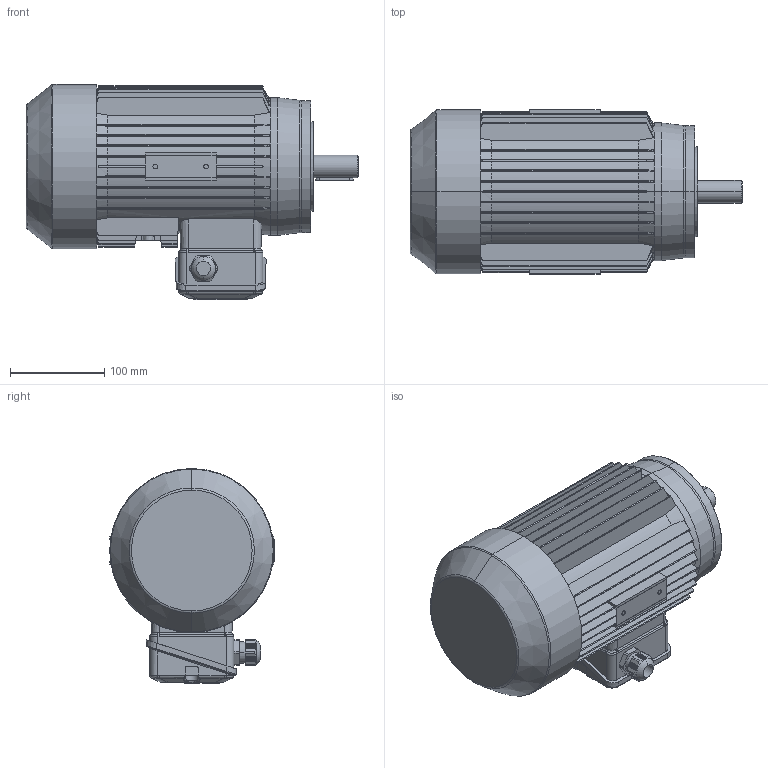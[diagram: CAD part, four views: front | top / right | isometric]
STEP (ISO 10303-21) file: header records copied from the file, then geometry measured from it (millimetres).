
FILE_DESCRIPTION (( 'STEP AP214' ), '1' );
FILE_NAME ('MAP90L4A IM3641 FT115.STEP', '2020-12-21T15:10:46', ( '' ), ( '' ), 'SwSTEP 2.0', 'SolidWorks 2018', '' );
FILE_SCHEMA (( 'AUTOMOTIVE_DESIGN' ));
Length unit declared in the file: millimetre
Products named in the file (1): MAP90L4A IM3641 FT115
Bounding box: 352 x 174.5 x 228 mm (x, y, z)
Volume: 6021415.9 mm3; surface area: 593731.4 mm2
Topology: 12 solids, 17 shells, 1084 faces, 2829 edges, 1818 vertices
Faces by surface type: plane 546, cylinder 253, bspline 120, cone 119, torus 44, sphere 2
Entity records: 40573 total; most frequent: CARTESIAN_POINT 15513, ORIENTED_EDGE 5654, DIRECTION 4531, EDGE_CURVE 2827, VERTEX_POINT 1818, AXIS2_PLACEMENT_3D 1537, VECTOR 1457, LINE 1457
